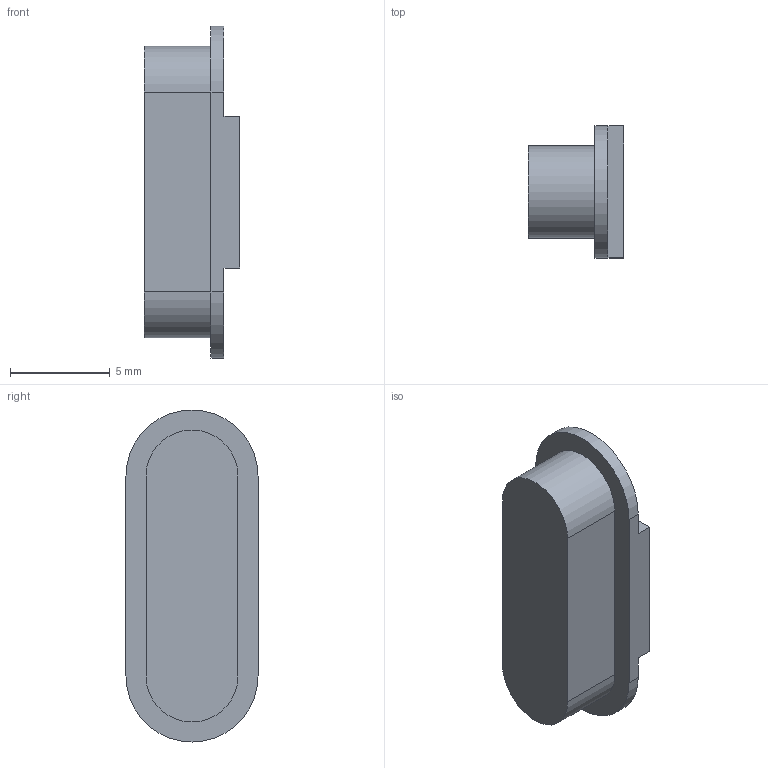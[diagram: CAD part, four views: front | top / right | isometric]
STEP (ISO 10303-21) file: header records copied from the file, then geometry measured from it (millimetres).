
FILE_DESCRIPTION (( 'STEP AP203' ), '1' );
FILE_NAME ('0306-timer button.STEP', '2017-03-30T09:32:52', ( 'USER-' ), ( 'MS' ), 'SwSTEP 2.0', 'SolidWorks 2015', '' );
FILE_SCHEMA (( 'CONFIG_CONTROL_DESIGN' ));
Length unit declared in the file: millimetre
Products named in the file (1): 0306-timer button
Bounding box: 4.8 x 6.6 x 16.6 mm (x, y, z)
Volume: 315 mm3; surface area: 365 mm2
Topology: 1 solids, 1 shells, 17 faces, 42 edges, 28 vertices
Faces by surface type: plane 11, cylinder 6
Entity records: 585 total; most frequent: DIRECTION 90, CARTESIAN_POINT 88, ORIENTED_EDGE 84, EDGE_CURVE 42, LINE 30, VECTOR 30, AXIS2_PLACEMENT_3D 30, VERTEX_POINT 28
